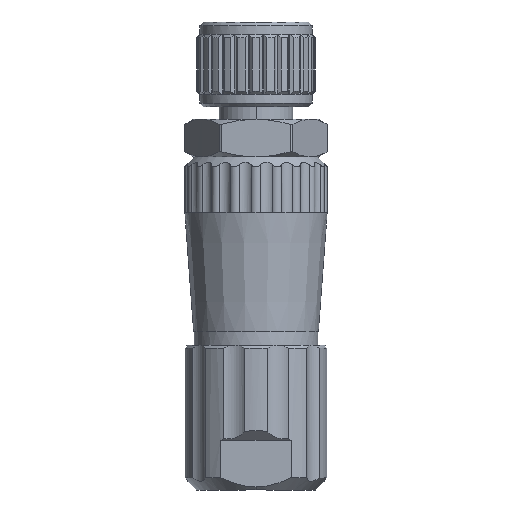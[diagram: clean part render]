
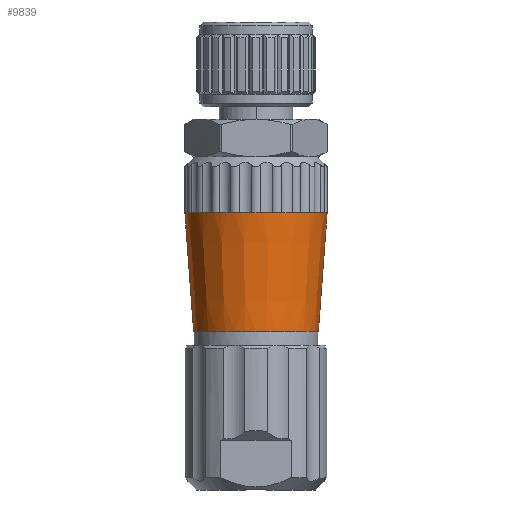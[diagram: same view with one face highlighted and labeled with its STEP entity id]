
A CAD part, left-side view. The second image highlights one B-rep face of the part: STEP entity #9839.
In plain terms, the highlighted conical face has half-angle 4.214 degrees and reference radius 5.7 mm.
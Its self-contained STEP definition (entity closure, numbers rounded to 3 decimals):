
#178 = ORIENTED_EDGE ( 'NONE', *, *, #42817, .T. ) ;
#756 = AXIS2_PLACEMENT_3D ( 'NONE', #18223, #43143, #43407 ) ;
#1533 = CARTESIAN_POINT ( 'NONE',  ( -4.611, -3.35, -14.9 ) ) ;
#1988 = AXIS2_PLACEMENT_3D ( 'NONE', #46279, #30752, #46548 ) ;
#2467 = CIRCLE ( 'NONE', #756, 5. ) ;
#2512 = ORIENTED_EDGE ( 'NONE', *, *, #13293, .T. ) ;
#2927 = VERTEX_POINT ( 'NONE', #22332 ) ;
#5177 = ORIENTED_EDGE ( 'NONE', *, *, #46112, .T. ) ;
#5362 = DIRECTION ( 'NONE',  ( 1., 0., 0. ) ) ;
#5970 = CARTESIAN_POINT ( 'NONE',  ( 0., 0., -14.9 ) ) ;
#6153 = AXIS2_PLACEMENT_3D ( 'NONE', #21481, #29780, #25775 ) ;
#6480 = EDGE_CURVE ( 'NONE', #17371, #45932, #29829, .T. ) ;
#6596 = VERTEX_POINT ( 'NONE', #36227 ) ;
#7800 = EDGE_CURVE ( 'NONE', #16025, #31143, #21008, .T. ) ;
#8478 = EDGE_CURVE ( 'NONE', #8809, #9745, #13285, .T. ) ;
#8620 = CARTESIAN_POINT ( 'NONE',  ( -1.75, 5.425, -14.9 ) ) ;
#8809 = VERTEX_POINT ( 'NONE', #24670 ) ;
#9745 = VERTEX_POINT ( 'NONE', #1533 ) ;
#9839 = ADVANCED_FACE ( 'NONE', ( #41335 ), #24500, .T. ) ;
#10606 = DIRECTION ( 'NONE',  ( 0., 0., -1. ) ) ;
#11334 = EDGE_CURVE ( 'NONE', #2927, #45163, #38379, .T. ) ;
#11450 = EDGE_CURVE ( 'NONE', #45932, #16025, #14490, .T. ) ;
#11740 = DIRECTION ( 'NONE',  ( 1., 0., 0. ) ) ;
#12288 = CIRCLE ( 'NONE', #1988, 5.7 ) ;
#12934 = DIRECTION ( 'NONE',  ( 0., 0., 1. ) ) ;
#13166 = CARTESIAN_POINT ( 'NONE',  ( 0., 0., -14.9 ) ) ;
#13285 = CIRCLE ( 'NONE', #29560, 5.7 ) ;
#13293 = EDGE_CURVE ( 'NONE', #9745, #6596, #38434, .T. ) ;
#14300 = EDGE_CURVE ( 'NONE', #2927, #38791, #2467, .T. ) ;
#14490 = CIRCLE ( 'NONE', #17048, 5.7 ) ;
#15500 = DIRECTION ( 'NONE',  ( 0., 0., -1. ) ) ;
#15549 = CARTESIAN_POINT ( 'NONE',  ( -5.7, 0., -14.9 ) ) ;
#16025 = VERTEX_POINT ( 'NONE', #45759 ) ;
#16290 = DIRECTION ( 'NONE',  ( 0., 0., -1. ) ) ;
#16569 = CARTESIAN_POINT ( 'NONE',  ( -4.611, 3.35, -14.9 ) ) ;
#17048 = AXIS2_PLACEMENT_3D ( 'NONE', #23668, #39985, #30635 ) ;
#17371 = VERTEX_POINT ( 'NONE', #26047 ) ;
#18048 = DIRECTION ( 'NONE',  ( 1., 0., 0. ) ) ;
#18223 = CARTESIAN_POINT ( 'NONE',  ( 0., 0., -24.4 ) ) ;
#19196 = CIRCLE ( 'NONE', #38880, 5.7 ) ;
#19592 = EDGE_CURVE ( 'NONE', #52458, #38791, #27984, .T. ) ;
#21008 = CIRCLE ( 'NONE', #50926, 5.7 ) ;
#21481 = CARTESIAN_POINT ( 'NONE',  ( 0., 0., -14.9 ) ) ;
#21861 = CARTESIAN_POINT ( 'NONE',  ( -1.75, -5.425, -14.9 ) ) ;
#22332 = CARTESIAN_POINT ( 'NONE',  ( 0., 5., -24.4 ) ) ;
#23149 = DIRECTION ( 'NONE',  ( 0., 0., -1. ) ) ;
#23468 = CIRCLE ( 'NONE', #29435, 5.7 ) ;
#23668 = CARTESIAN_POINT ( 'NONE',  ( 0., 0., -14.9 ) ) ;
#24393 = CARTESIAN_POINT ( 'NONE',  ( 0., 0., -14.9 ) ) ;
#24500 = CONICAL_SURFACE ( 'NONE', #50115, 5.7, 0.074 ) ;
#24590 = DIRECTION ( 'NONE',  ( 0., 0., -1. ) ) ;
#24670 = CARTESIAN_POINT ( 'NONE',  ( -3.35, -4.611, -14.9 ) ) ;
#24912 = DIRECTION ( 'NONE',  ( 1., 0., 0. ) ) ;
#25775 = DIRECTION ( 'NONE',  ( 1., 0., 0. ) ) ;
#26047 = CARTESIAN_POINT ( 'NONE',  ( -5.421, 1.761, -14.9 ) ) ;
#27198 = ORIENTED_EDGE ( 'NONE', *, *, #14300, .T. ) ;
#27984 = LINE ( 'NONE', #32255, #51248 ) ;
#28032 = VERTEX_POINT ( 'NONE', #15549 ) ;
#28141 = DIRECTION ( 'NONE',  ( 0., 0., -1. ) ) ;
#28428 = AXIS2_PLACEMENT_3D ( 'NONE', #43904, #15500, #44161 ) ;
#29060 = EDGE_CURVE ( 'NONE', #28032, #17371, #30150, .T. ) ;
#29435 = AXIS2_PLACEMENT_3D ( 'NONE', #36391, #16290, #11740 ) ;
#29560 = AXIS2_PLACEMENT_3D ( 'NONE', #13166, #37546, #5362 ) ;
#29567 = CARTESIAN_POINT ( 'NONE',  ( 0., 5., -24.4 ) ) ;
#29780 = DIRECTION ( 'NONE',  ( 0., 0., -1. ) ) ;
#29829 = CIRCLE ( 'NONE', #36690, 5.7 ) ;
#30035 = EDGE_CURVE ( 'NONE', #48314, #8809, #52366, .T. ) ;
#30150 = CIRCLE ( 'NONE', #28428, 5.7 ) ;
#30635 = DIRECTION ( 'NONE',  ( 1., 0., 0. ) ) ;
#30752 = DIRECTION ( 'NONE',  ( 0., 0., -1. ) ) ;
#30981 = DIRECTION ( 'NONE',  ( 1., 0., 0. ) ) ;
#31143 = VERTEX_POINT ( 'NONE', #8620 ) ;
#32255 = CARTESIAN_POINT ( 'NONE',  ( 0., -36775.219, 499000. ) ) ;
#33567 = CARTESIAN_POINT ( 'NONE',  ( 0., 0., -14.9 ) ) ;
#33736 = EDGE_CURVE ( 'NONE', #52458, #48314, #19196, .T. ) ;
#36227 = CARTESIAN_POINT ( 'NONE',  ( -5.421, -1.761, -14.9 ) ) ;
#36367 = DIRECTION ( 'NONE',  ( 1., 0., 0. ) ) ;
#36391 = CARTESIAN_POINT ( 'NONE',  ( 0., 0., -14.9 ) ) ;
#36690 = AXIS2_PLACEMENT_3D ( 'NONE', #5970, #23149, #18048 ) ;
#36979 = ORIENTED_EDGE ( 'NONE', *, *, #19592, .F. ) ;
#37546 = DIRECTION ( 'NONE',  ( 0., 0., -1. ) ) ;
#37729 = ORIENTED_EDGE ( 'NONE', *, *, #11334, .F. ) ;
#38307 = ORIENTED_EDGE ( 'NONE', *, *, #30035, .T. ) ;
#38379 = B_SPLINE_CURVE_WITH_KNOTS ( 'NONE', 1,
 ( #29567, #49898 ),
 .UNSPECIFIED., .F., .F.,
 ( 2, 2 ),
 ( 0., 1. ),
 .UNSPECIFIED. ) ;
#38434 = CIRCLE ( 'NONE', #40987, 5.7 ) ;
#38791 = VERTEX_POINT ( 'NONE', #40379 ) ;
#38880 = AXIS2_PLACEMENT_3D ( 'NONE', #48157, #24590, #36367 ) ;
#39448 = CARTESIAN_POINT ( 'NONE',  ( 0., -5.7, -14.9 ) ) ;
#39985 = DIRECTION ( 'NONE',  ( 0., 0., -1. ) ) ;
#40379 = CARTESIAN_POINT ( 'NONE',  ( 0., -5., -24.4 ) ) ;
#40987 = AXIS2_PLACEMENT_3D ( 'NONE', #24393, #28141, #24912 ) ;
#41335 = FACE_OUTER_BOUND ( 'NONE', #44946, .T. ) ;
#41606 = DIRECTION ( 'NONE',  ( 1., 0., 0. ) ) ;
#41984 = CARTESIAN_POINT ( 'NONE',  ( 0., 5.7, -14.9 ) ) ;
#42817 = EDGE_CURVE ( 'NONE', #6596, #28032, #23468, .T. ) ;
#43143 = DIRECTION ( 'NONE',  ( 0., 0., 1. ) ) ;
#43407 = DIRECTION ( 'NONE',  ( 1., 0., 0. ) ) ;
#43494 = ORIENTED_EDGE ( 'NONE', *, *, #8478, .T. ) ;
#43503 = ORIENTED_EDGE ( 'NONE', *, *, #33736, .T. ) ;
#43904 = CARTESIAN_POINT ( 'NONE',  ( 0., 0., -14.9 ) ) ;
#44161 = DIRECTION ( 'NONE',  ( 1., 0., 0. ) ) ;
#44567 = DIRECTION ( 'NONE',  ( 0., 0.073, -0.997 ) ) ;
#44921 = ORIENTED_EDGE ( 'NONE', *, *, #29060, .T. ) ;
#44946 = EDGE_LOOP ( 'NONE', ( #52785, #48462, #46886, #5177, #37729, #27198, #36979, #43503, #38307, #43494, #2512, #178, #44921 ) ) ;
#45163 = VERTEX_POINT ( 'NONE', #41984 ) ;
#45759 = CARTESIAN_POINT ( 'NONE',  ( -3.35, 4.611, -14.9 ) ) ;
#45932 = VERTEX_POINT ( 'NONE', #16569 ) ;
#46112 = EDGE_CURVE ( 'NONE', #31143, #45163, #12288, .T. ) ;
#46279 = CARTESIAN_POINT ( 'NONE',  ( 0., 0., -14.9 ) ) ;
#46548 = DIRECTION ( 'NONE',  ( 1., 0., 0. ) ) ;
#46886 = ORIENTED_EDGE ( 'NONE', *, *, #7800, .T. ) ;
#48157 = CARTESIAN_POINT ( 'NONE',  ( 0., 0., -14.9 ) ) ;
#48314 = VERTEX_POINT ( 'NONE', #21861 ) ;
#48462 = ORIENTED_EDGE ( 'NONE', *, *, #11450, .T. ) ;
#49898 = CARTESIAN_POINT ( 'NONE',  ( 0., 5.7, -14.9 ) ) ;
#50115 = AXIS2_PLACEMENT_3D ( 'NONE', #33567, #12934, #41606 ) ;
#50926 = AXIS2_PLACEMENT_3D ( 'NONE', #51863, #10606, #30981 ) ;
#51248 = VECTOR ( 'NONE', #44567, 1000. ) ;
#51863 = CARTESIAN_POINT ( 'NONE',  ( 0., 0., -14.9 ) ) ;
#52366 = CIRCLE ( 'NONE', #6153, 5.7 ) ;
#52458 = VERTEX_POINT ( 'NONE', #39448 ) ;
#52785 = ORIENTED_EDGE ( 'NONE', *, *, #6480, .T. ) ;
